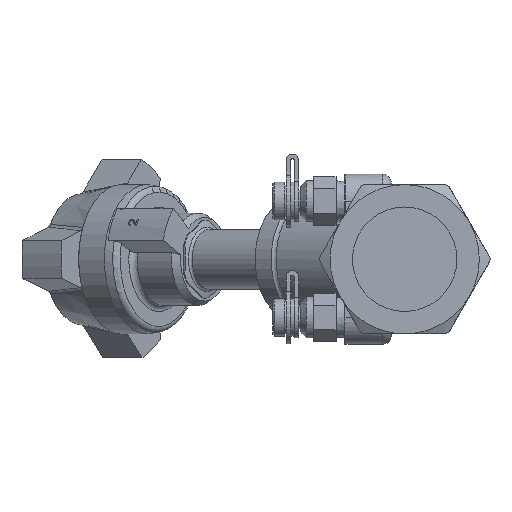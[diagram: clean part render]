
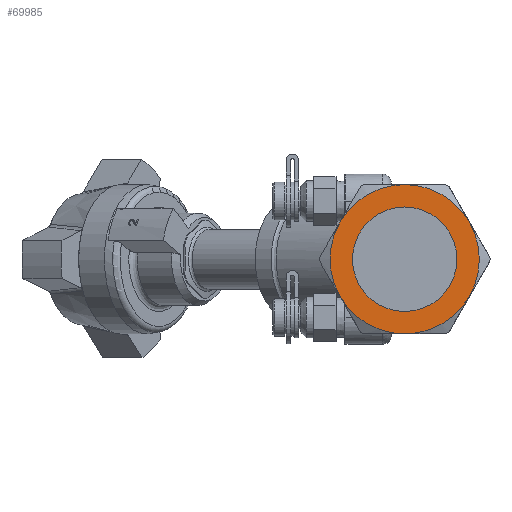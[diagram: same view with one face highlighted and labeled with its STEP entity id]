
A CAD part, left-side view. The second image highlights one B-rep face of the part: STEP entity #69985.
In plain terms, the highlighted planar face has unit normal (-1, 0, 0).
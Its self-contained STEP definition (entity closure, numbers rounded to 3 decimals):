
#61242=CARTESIAN_POINT('',(-114.,-17.5,0.));
#61243=VERTEX_POINT('',#61242);
#61244=CARTESIAN_POINT('',(-114.,0.,0.));
#61245=DIRECTION('',(1.0,0.0,0.0));
#61246=DIRECTION('',(0.0,-1.0,0.0));
#61247=AXIS2_PLACEMENT_3D('',#61244,#61245,#61246);
#61248=CIRCLE('',#61247,17.5);
#61249=EDGE_CURVE('',#61243,#61243,#61248,.T.);
#64772=CARTESIAN_POINT('',(-114.,21.651,12.5));
#64773=VERTEX_POINT('',#64772);
#64818=CARTESIAN_POINT('',(-114.,21.651,-12.5));
#64819=VERTEX_POINT('',#64818);
#64871=CARTESIAN_POINT('',(-114.,0.,-25.));
#64872=VERTEX_POINT('',#64871);
#64924=CARTESIAN_POINT('',(-114.,-21.651,-12.5));
#64925=VERTEX_POINT('',#64924);
#64977=CARTESIAN_POINT('',(-114.,-21.651,12.5));
#64978=VERTEX_POINT('',#64977);
#65030=CARTESIAN_POINT('',(-114.,0.,25.));
#65031=VERTEX_POINT('',#65030);
#65092=CARTESIAN_POINT('',(-114.,0.,0.0));
#65093=DIRECTION('',(-1.0,0.0,0.0));
#65094=DIRECTION('',(0.0,-1.0,0.0));
#65095=AXIS2_PLACEMENT_3D('',#65092,#65093,#65094);
#65096=CIRCLE('',#65095,25.);
#65097=EDGE_CURVE('',#65031,#64773,#65096,.T.);
#65116=CARTESIAN_POINT('',(-114.,0.,0.0));
#65117=DIRECTION('',(-1.0,0.0,0.0));
#65118=DIRECTION('',(0.0,-1.0,0.0));
#65119=AXIS2_PLACEMENT_3D('',#65116,#65117,#65118);
#65120=CIRCLE('',#65119,25.);
#65121=EDGE_CURVE('',#64978,#65031,#65120,.T.);
#65140=CARTESIAN_POINT('',(-114.,0.,0.0));
#65141=DIRECTION('',(-1.0,0.0,0.0));
#65142=DIRECTION('',(0.0,-1.0,0.0));
#65143=AXIS2_PLACEMENT_3D('',#65140,#65141,#65142);
#65144=CIRCLE('',#65143,25.);
#65145=EDGE_CURVE('',#64925,#64978,#65144,.T.);
#65164=CARTESIAN_POINT('',(-114.,0.,0.0));
#65165=DIRECTION('',(-1.0,0.0,0.0));
#65166=DIRECTION('',(0.0,-1.0,0.0));
#65167=AXIS2_PLACEMENT_3D('',#65164,#65165,#65166);
#65168=CIRCLE('',#65167,25.);
#65169=EDGE_CURVE('',#64872,#64925,#65168,.T.);
#65188=CARTESIAN_POINT('',(-114.,0.,0.0));
#65189=DIRECTION('',(-1.0,0.0,0.0));
#65190=DIRECTION('',(0.0,-1.0,0.0));
#65191=AXIS2_PLACEMENT_3D('',#65188,#65189,#65190);
#65192=CIRCLE('',#65191,25.);
#65193=EDGE_CURVE('',#64819,#64872,#65192,.T.);
#69957=CARTESIAN_POINT('',(-114.,0.,0.0));
#69958=DIRECTION('',(-1.0,0.0,0.0));
#69959=DIRECTION('',(0.0,-1.0,0.0));
#69960=AXIS2_PLACEMENT_3D('',#69957,#69958,#69959);
#69961=CIRCLE('',#69960,25.);
#69962=EDGE_CURVE('',#64773,#64819,#69961,.T.);
#69969=CARTESIAN_POINT('',(-114.,-12.5,0.0));
#69970=DIRECTION('',(-1.0,0.0,0.0));
#69971=DIRECTION('',(0.0,0.0,1.0));
#69972=AXIS2_PLACEMENT_3D('',#69969,#69970,#69971);
#69973=PLANE('',#69972);
#69974=ORIENTED_EDGE('',*,*,#65145,.T.);
#69975=ORIENTED_EDGE('',*,*,#65121,.T.);
#69976=ORIENTED_EDGE('',*,*,#65097,.T.);
#69977=ORIENTED_EDGE('',*,*,#69962,.T.);
#69978=ORIENTED_EDGE('',*,*,#65193,.T.);
#69979=ORIENTED_EDGE('',*,*,#65169,.T.);
#69980=EDGE_LOOP('',(#69974,#69975,#69976,#69977,#69978,#69979));
#69981=FACE_OUTER_BOUND('',#69980,.T.);
#69982=ORIENTED_EDGE('',*,*,#61249,.T.);
#69983=EDGE_LOOP('',(#69982));
#69984=FACE_BOUND('',#69983,.T.);
#69985=ADVANCED_FACE('',(#69981,#69984),#69973,.T.);
